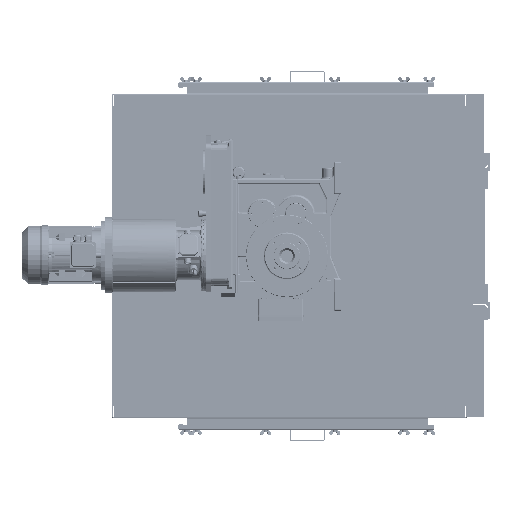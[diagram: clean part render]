
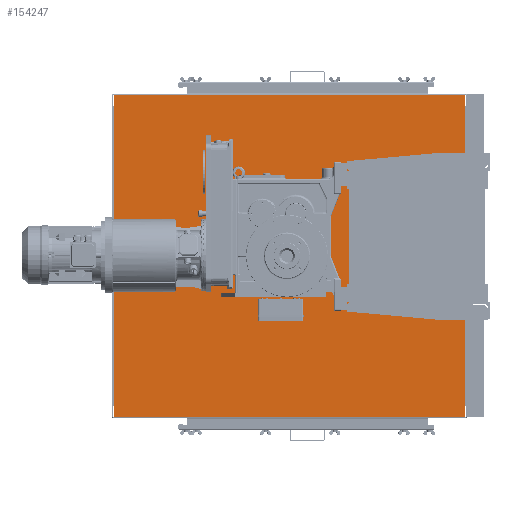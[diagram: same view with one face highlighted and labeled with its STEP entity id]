
A CAD part, left-side view. The second image highlights one B-rep face of the part: STEP entity #154247.
In plain terms, the highlighted planar face has unit normal (-1, 0, 0).
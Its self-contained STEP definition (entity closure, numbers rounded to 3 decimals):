
#8152=FACE_BOUND('',#29352,.T.);
#8153=FACE_BOUND('',#29353,.T.);
#8154=FACE_BOUND('',#29354,.T.);
#8155=FACE_BOUND('',#29355,.T.);
#8156=FACE_BOUND('',#29356,.T.);
#8157=FACE_BOUND('',#29357,.T.);
#8158=FACE_BOUND('',#29358,.T.);
#8159=FACE_BOUND('',#29359,.T.);
#8160=FACE_BOUND('',#29360,.T.);
#12887=CIRCLE('',#165980,7.25);
#12888=CIRCLE('',#165982,7.25);
#12889=CIRCLE('',#165984,7.25);
#12890=CIRCLE('',#165986,7.25);
#12891=CIRCLE('',#165988,7.25);
#12892=CIRCLE('',#165990,7.25);
#12893=CIRCLE('',#165992,7.25);
#12894=CIRCLE('',#165994,7.25);
#12895=CIRCLE('',#165996,60.);
#19982=FACE_OUTER_BOUND('',#29351,.T.);
#29351=EDGE_LOOP('',(#121670,#121671,#121672,#121673));
#29352=EDGE_LOOP('',(#121674));
#29353=EDGE_LOOP('',(#121675));
#29354=EDGE_LOOP('',(#121676));
#29355=EDGE_LOOP('',(#121677));
#29356=EDGE_LOOP('',(#121678));
#29357=EDGE_LOOP('',(#121679));
#29358=EDGE_LOOP('',(#121680));
#29359=EDGE_LOOP('',(#121681));
#29360=EDGE_LOOP('',(#121682));
#40540=LINE('',#266970,#53083);
#40543=LINE('',#266978,#53086);
#40545=LINE('',#266981,#53088);
#40546=LINE('',#266982,#53089);
#53083=VECTOR('',#196211,1524.);
#53086=VECTOR('',#196222,1398.);
#53088=VECTOR('',#196226,1398.);
#53089=VECTOR('',#196227,1524.);
#66894=VERTEX_POINT('',#265211);
#67272=VERTEX_POINT('',#266616);
#67274=VERTEX_POINT('',#266627);
#67275=VERTEX_POINT('',#266630);
#67276=VERTEX_POINT('',#266633);
#67277=VERTEX_POINT('',#266636);
#67278=VERTEX_POINT('',#266639);
#67279=VERTEX_POINT('',#266642);
#67280=VERTEX_POINT('',#266645);
#67281=VERTEX_POINT('',#266648);
#67282=VERTEX_POINT('',#266651);
#67369=VERTEX_POINT('',#266968);
#67370=VERTEX_POINT('',#266977);
#86095=EDGE_CURVE('',#67274,#67274,#12887,.T.);
#86096=EDGE_CURVE('',#67275,#67275,#12888,.T.);
#86097=EDGE_CURVE('',#67276,#67276,#12889,.T.);
#86098=EDGE_CURVE('',#67277,#67277,#12890,.T.);
#86099=EDGE_CURVE('',#67278,#67278,#12891,.T.);
#86100=EDGE_CURVE('',#67279,#67279,#12892,.T.);
#86101=EDGE_CURVE('',#67280,#67280,#12893,.T.);
#86102=EDGE_CURVE('',#67281,#67281,#12894,.T.);
#86103=EDGE_CURVE('',#67282,#67282,#12895,.T.);
#86263=EDGE_CURVE('',#66894,#67369,#40540,.T.);
#86266=EDGE_CURVE('',#67370,#66894,#40543,.T.);
#86268=EDGE_CURVE('',#67369,#67272,#40545,.T.);
#86269=EDGE_CURVE('',#67272,#67370,#40546,.T.);
#121670=ORIENTED_EDGE('',*,*,#86263,.T.);
#121671=ORIENTED_EDGE('',*,*,#86268,.T.);
#121672=ORIENTED_EDGE('',*,*,#86269,.T.);
#121673=ORIENTED_EDGE('',*,*,#86266,.T.);
#121674=ORIENTED_EDGE('',*,*,#86095,.T.);
#121675=ORIENTED_EDGE('',*,*,#86096,.T.);
#121676=ORIENTED_EDGE('',*,*,#86097,.T.);
#121677=ORIENTED_EDGE('',*,*,#86098,.T.);
#121678=ORIENTED_EDGE('',*,*,#86099,.T.);
#121679=ORIENTED_EDGE('',*,*,#86100,.T.);
#121680=ORIENTED_EDGE('',*,*,#86101,.T.);
#121681=ORIENTED_EDGE('',*,*,#86102,.T.);
#121682=ORIENTED_EDGE('',*,*,#86103,.T.);
#138205=PLANE('',#166097);
#154247=ADVANCED_FACE('',(#19982,#8152,#8153,#8154,#8155,#8156,#8157,#8158,
#8159,#8160),#138205,.F.);
#165980=AXIS2_PLACEMENT_3D('',#266628,#195851,#195852);
#165982=AXIS2_PLACEMENT_3D('',#266631,#195855,#195856);
#165984=AXIS2_PLACEMENT_3D('',#266634,#195859,#195860);
#165986=AXIS2_PLACEMENT_3D('',#266637,#195863,#195864);
#165988=AXIS2_PLACEMENT_3D('',#266640,#195867,#195868);
#165990=AXIS2_PLACEMENT_3D('',#266643,#195871,#195872);
#165992=AXIS2_PLACEMENT_3D('',#266646,#195875,#195876);
#165994=AXIS2_PLACEMENT_3D('',#266649,#195879,#195880);
#165996=AXIS2_PLACEMENT_3D('',#266652,#195883,#195884);
#166097=AXIS2_PLACEMENT_3D('',#266980,#196224,#196225);
#195851=DIRECTION('center_axis',(1.,0.,0.));
#195852=DIRECTION('ref_axis',(0.,-1.,0.));
#195855=DIRECTION('center_axis',(1.,0.,0.));
#195856=DIRECTION('ref_axis',(0.,-1.,0.));
#195859=DIRECTION('center_axis',(1.,0.,0.));
#195860=DIRECTION('ref_axis',(0.,-1.,0.));
#195863=DIRECTION('center_axis',(1.,0.,0.));
#195864=DIRECTION('ref_axis',(0.,-1.,0.));
#195867=DIRECTION('center_axis',(1.,0.,0.));
#195868=DIRECTION('ref_axis',(0.,-1.,0.));
#195871=DIRECTION('center_axis',(1.,0.,0.));
#195872=DIRECTION('ref_axis',(0.,-1.,0.));
#195875=DIRECTION('center_axis',(1.,0.,0.));
#195876=DIRECTION('ref_axis',(0.,-1.,0.));
#195879=DIRECTION('center_axis',(1.,0.,0.));
#195880=DIRECTION('ref_axis',(0.,-1.,0.));
#195883=DIRECTION('center_axis',(1.,0.,0.));
#195884=DIRECTION('ref_axis',(0.,-1.,0.));
#196211=DIRECTION('',(0.,-1.,0.));
#196222=DIRECTION('',(0.,0.,-1.));
#196224=DIRECTION('center_axis',(1.,0.,0.));
#196225=DIRECTION('ref_axis',(0.,-1.,0.));
#196226=DIRECTION('',(0.,0.,1.));
#196227=DIRECTION('',(0.,1.,0.));
#265211=CARTESIAN_POINT('',(261.319,691.268,-845.606));
#266616=CARTESIAN_POINT('',(261.319,-832.732,552.394));
#266627=CARTESIAN_POINT('',(261.319,-66.982,-261.106));
#266628=CARTESIAN_POINT('Origin',(261.319,-59.732,-261.106));
#266630=CARTESIAN_POINT('',(261.319,-181.482,-146.606));
#266631=CARTESIAN_POINT('Origin',(261.319,-174.232,-146.606));
#266633=CARTESIAN_POINT('',(261.319,-66.982,-32.106));
#266634=CARTESIAN_POINT('Origin',(261.319,-59.732,-32.106));
#266636=CARTESIAN_POINT('',(261.319,47.518,-146.606));
#266637=CARTESIAN_POINT('Origin',(261.319,54.768,-146.606));
#266639=CARTESIAN_POINT('',(261.319,13.982,-65.643));
#266640=CARTESIAN_POINT('Origin',(261.319,21.232,-65.643));
#266642=CARTESIAN_POINT('',(261.319,-147.946,-65.643));
#266643=CARTESIAN_POINT('Origin',(261.319,-140.696,-65.643));
#266645=CARTESIAN_POINT('',(261.319,-147.946,-227.57));
#266646=CARTESIAN_POINT('Origin',(261.319,-140.696,-227.57));
#266648=CARTESIAN_POINT('',(261.319,13.982,-227.57));
#266649=CARTESIAN_POINT('Origin',(261.319,21.232,-227.57));
#266651=CARTESIAN_POINT('',(261.319,-119.732,-146.606));
#266652=CARTESIAN_POINT('Origin',(261.319,-59.732,-146.606));
#266968=CARTESIAN_POINT('',(261.319,-832.732,-845.606));
#266970=CARTESIAN_POINT('',(261.319,310.268,-845.606));
#266977=CARTESIAN_POINT('',(261.319,691.268,552.394));
#266978=CARTESIAN_POINT('',(261.319,691.268,554.394));
#266980=CARTESIAN_POINT('Origin',(261.319,-70.732,-146.606));
#266981=CARTESIAN_POINT('',(261.319,-832.732,-847.606));
#266982=CARTESIAN_POINT('',(261.319,-451.732,552.394));
